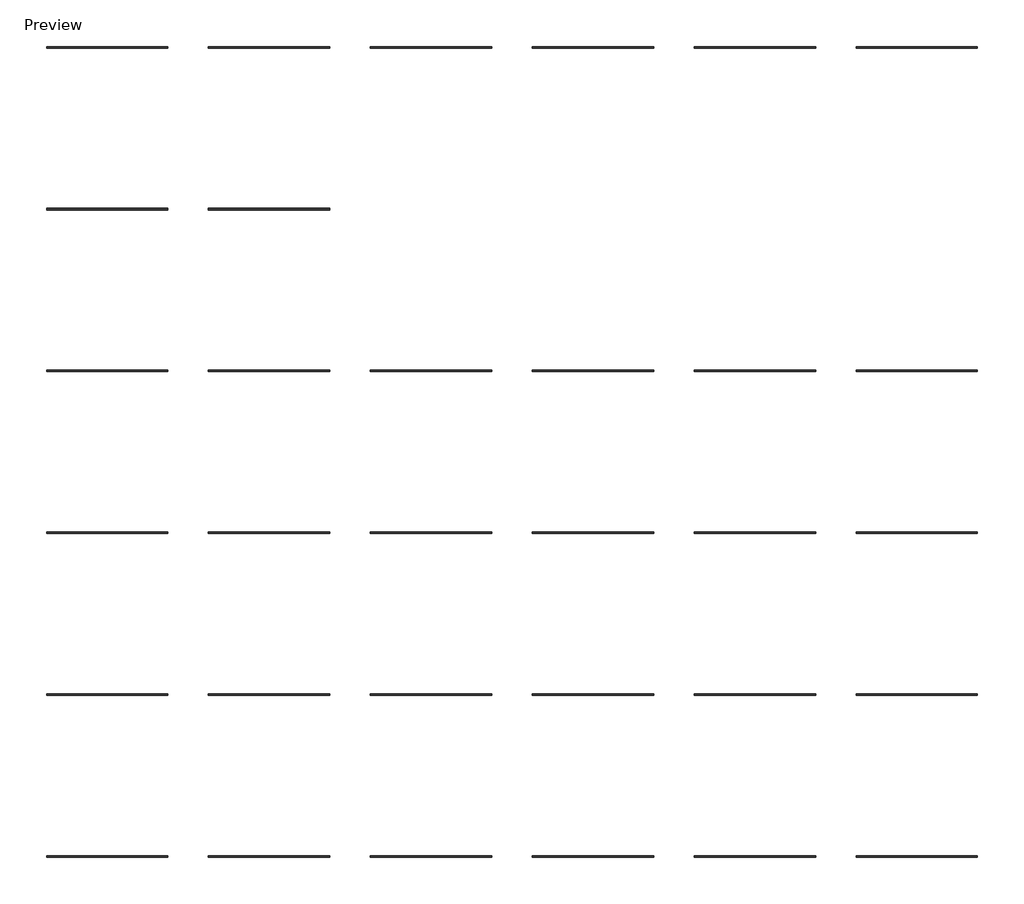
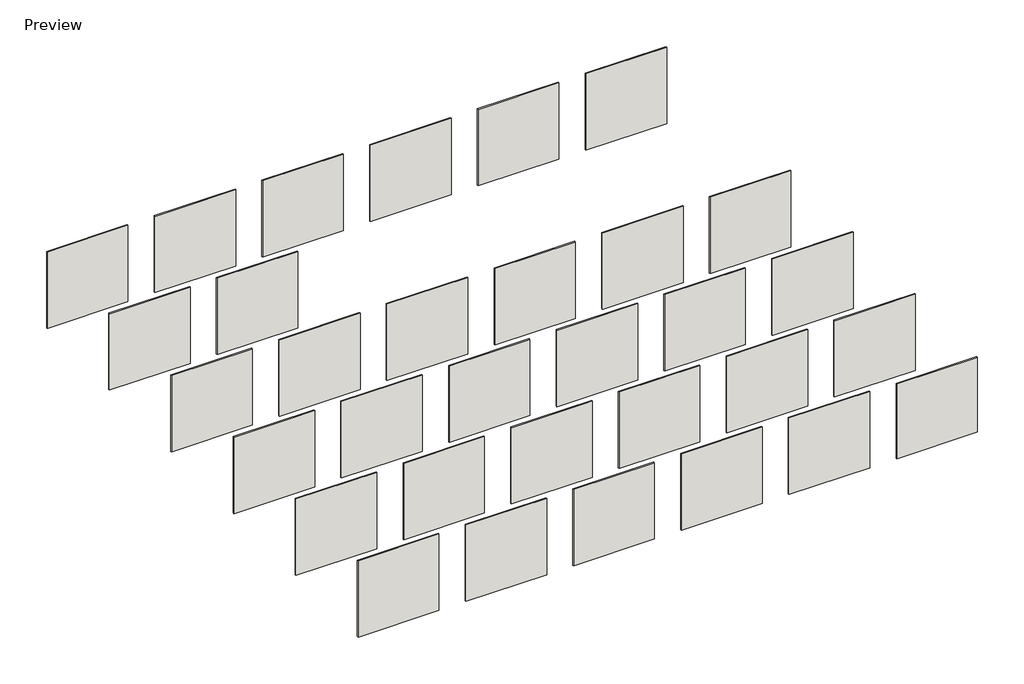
# One storey: 32 walls.
"""IFC4 building model written with IfcOpenShell, lengths in millimetres."""

import ifcopenshell
import ifcopenshell.guid

model = None  # the IFC model being written
_history = None  # IfcOwnerHistory: only IFC2X3 demands one
_inside = {}  # id of a spatial element -> (the spatial element, [elements in it])
_under = {}  # id of a project, library or spatial element -> (it, [spatial elements below it])
_declared = {}  # id of a project -> (the project, [libraries it declares])
_typed = {}  # id of a type object -> (the type object, [elements of that type])
_made_of = {}  # id of a material, layer set ... -> (it, [elements and type objects made of it])


def new_model(schema):
    """Start an empty IFC model of exactly this schema.

    Asked for "IFC4X3", IfcOpenShell would pick the latest addendum, in which some entities
    have other attributes; the version numbers below select the first issue.
    IFC2X3 requires an IfcOwnerHistory on every rooted entity: one is made here for all.
    """
    global model, _history
    if schema == "IFC4X3":
        model = ifcopenshell.file(schema_version=(4, 3, 0, 0))
    else:
        model = ifcopenshell.file(schema=schema)
    _inside.clear()
    _under.clear()
    _declared.clear()
    _typed.clear()
    _made_of.clear()
    _history = None
    if model.schema == "IFC2X3":
        org = make("IfcOrganization", Name="unknown")
        user = make(
            "IfcPersonAndOrganization",
            ThePerson=make("IfcPerson", FamilyName="unknown"),
            TheOrganization=org,
        )
        app = make(
            "IfcApplication",
            ApplicationDeveloper=org,
            Version="unknown",
            ApplicationFullName="unknown",
            ApplicationIdentifier="unknown",
        )
        _history = make(
            "IfcOwnerHistory",
            OwningUser=user,
            OwningApplication=app,
            ChangeAction="ADDED",
            CreationDate=0,
        )
    return model


def make(cls, **values):
    """One entity of the class cls with the attributes given. An attribute that is None is left unset."""
    return model.create_entity(
        cls, **{name: value for name, value in values.items() if value is not None}
    )


def rooted(cls, **values):
    """An entity with a GlobalId (a new one), such as an element, a storey or a relation."""
    return make(cls, GlobalId=ifcopenshell.guid.new(), OwnerHistory=_history, **values)


def si_unit(unit_type, name, prefix=None):
    """IfcSIUnit, for example si_unit("LENGTHUNIT", "METRE", prefix="MILLI")."""
    return make("IfcSIUnit", UnitType=unit_type, Prefix=prefix, Name=name)


def assignment(units):
    """IfcUnitAssignment: the units of a project."""
    return None if units is None else make("IfcUnitAssignment", Units=units)


def point(xyz):
    """IfcCartesianPoint."""
    return None if xyz is None else make("IfcCartesianPoint", Coordinates=xyz)


def direction(xyz):
    """IfcDirection."""
    return None if xyz is None else make("IfcDirection", DirectionRatios=xyz)


def frame(location, z_axis=None, x_axis=None):
    """IfcAxis2Placement3D, a coordinate frame: its origin and axes. An axis left out is left unset."""
    return make(
        "IfcAxis2Placement3D",
        Location=point(location),
        Axis=direction(z_axis),
        RefDirection=direction(x_axis),
    )


def origin():
    """The frame at (0, 0, 0) with its axes left unset."""
    return frame((0.0, 0.0, 0.0))


def origin_with_axes():
    """The frame at (0, 0, 0) with the z axis (0, 0, 1) and the x axis (1, 0, 0) written out."""
    return frame((0.0, 0.0, 0.0), z_axis=(0.0, 0.0, 1.0), x_axis=(1.0, 0.0, 0.0))


def place(relative_to, where):
    """IfcLocalPlacement: puts the frame where relative to a parent placement (None: the world)."""
    return make(
        "IfcLocalPlacement", PlacementRelTo=relative_to, RelativePlacement=where
    )


def context(
    kind, dimensions, precision=None, world=None, true_north=None, identifier=None
):
    """IfcGeometricRepresentationContext, for example the 3D "Model" context."""
    return make(
        "IfcGeometricRepresentationContext",
        ContextIdentifier=identifier,
        ContextType=kind,
        CoordinateSpaceDimension=dimensions,
        Precision=precision,
        WorldCoordinateSystem=world,
        TrueNorth=true_north,
    )


def project(units=None, contexts=None):
    """IfcProject with its units and contexts."""
    return rooted(
        "IfcProject",
        Name="project",
        RepresentationContexts=contexts,
        UnitsInContext=assignment(units),
    )


def spatial(cls, under=None, at=None, **own):
    """A site, building, storey or space (cls), placed at a placement, below another one or the project."""
    s = rooted(cls, ObjectPlacement=at, **own)
    if under is not None:
        _under.setdefault(under.id(), (under, []))[1].append(s)
    return s


def polyline(points):
    """IfcPolyline through the points."""
    return make("IfcPolyline", Points=[point(p) for p in points])


def outline(outer, holes=None, kind="AREA"):
    """IfcArbitraryClosedProfileDef: a profile drawn as a closed curve; with holes, ...WithVoids."""
    if holes is None:
        return make("IfcArbitraryClosedProfileDef", ProfileType=kind, OuterCurve=outer)
    return make(
        "IfcArbitraryProfileDefWithVoids",
        ProfileType=kind,
        OuterCurve=outer,
        InnerCurves=holes,
    )


def extrude(swept, where, along, depth):
    """IfcExtrudedAreaSolid: the profile swept, set in the frame where, extruded along a direction by depth."""
    return make(
        "IfcExtrudedAreaSolid",
        SweptArea=swept,
        Position=where,
        ExtrudedDirection=direction(along),
        Depth=depth,
    )


def shape(context_of_items, identifier, shape_type, items):
    """IfcShapeRepresentation: the items that make up one representation, for example the "Body"."""
    return make(
        "IfcShapeRepresentation",
        ContextOfItems=context_of_items,
        RepresentationIdentifier=identifier,
        RepresentationType=shape_type,
        Items=items,
    )


def made_of(thing, what):
    """Note that an element or type object is made of a material, layer set ...; save() writes the relation."""
    if what is not None:
        _made_of.setdefault(what.id(), (what, []))[1].append(thing)
    return thing


def element(
    cls,
    number,
    at=None,
    inside=None,
    cuts=None,
    type_object=None,
    material=None,
    context=None,
    identifier="Body",
    shape_type=None,
    held_by="IfcProductDefinitionShape",
    body=None,
    shapes=None,
    **own,
):
    """One element of the class cls, such as IfcWall. Its Tag is "e" and its number.

    at: its placement. inside: the storey or other place that contains it. cuts: it is an
    opening in that element (IfcRelVoidsElement). A single representation is given by context,
    identifier, shape_type and body (its items); several are given by shapes. held_by: the class
    of the entity that holds the representations. save() writes the other relations.
    """
    e = rooted(cls, Tag="e%d" % number, ObjectPlacement=at, **own)
    if body is not None:
        shapes = [shape(context, identifier, shape_type, body)]
    if shapes is not None:
        e.Representation = make(held_by, Representations=shapes)
    if inside is not None:
        _inside.setdefault(inside.id(), (inside, []))[1].append(e)
    if cuts is not None:
        rooted(
            "IfcRelVoidsElement", RelatingBuildingElement=cuts, RelatedOpeningElement=e
        )
    if type_object is not None:
        _typed.setdefault(type_object.id(), (type_object, []))[1].append(e)
    return made_of(e, material)


def aggregate(whole, parts):
    """IfcRelAggregates: a whole, such as a stair, and the parts it consists of."""
    return rooted("IfcRelAggregates", RelatingObject=whole, RelatedObjects=parts)


def save(model, path):
    """Write the relations noted so far, then the file.

    IfcRelAggregates (storeys below a building ...), IfcRelContainedInSpatialStructure (elements
    in a storey), IfcRelDefinesByType, IfcRelAssociatesMaterial and IfcRelDeclares: one each for
    every whole, place, type object, material and project.
    """
    for whole, parts in _under.values():
        aggregate(whole, parts)
    for where, things in _inside.values():
        rooted(
            "IfcRelContainedInSpatialStructure",
            RelatedElements=things,
            RelatingStructure=where,
        )
    for kind, things in _typed.values():
        rooted("IfcRelDefinesByType", RelatedObjects=things, RelatingType=kind)
    for what, things in _made_of.values():
        rooted("IfcRelAssociatesMaterial", RelatedObjects=things, RelatingMaterial=what)
    for by, libraries in _declared.values():
        rooted("IfcRelDeclares", RelatingContext=by, RelatedDefinitions=libraries)
    model.write(path)


model = new_model("IFC4")

# Units and contexts
model_context = context("Model", 3, world=origin())
ifc_project = project(units=[si_unit("LENGTHUNIT", "METRE", prefix="MILLI")], contexts=[model_context])

# Site, building, storey
site = spatial("IfcSite", under=ifc_project)
building = spatial("IfcBuilding", under=site)
storey = spatial("IfcBuildingStorey", under=building, Name="Preview", Elevation=0.0)

# Walls
placement = place(None, origin())
element("IfcWall", 1, ObjectType="ATAS_Ascot White", at=placement, inside=storey, context=model_context, shape_type="SweptSolid", body=[
    extrude(outline(polyline([(-18839.3718391, 8535.7201131), (-20668.1718391, 8535.7201131), (-20668.1718391, 8559.5326131), (-18839.3718391, 8559.5326131), (-18839.3718391, 8535.7201131)])), origin_with_axes(), (0.0, 0.0, 1.0), 1828.8),
])
element("IfcWall", 2, ObjectType="ATAS_Classic Bronze", at=placement, inside=storey, context=model_context, shape_type="SweptSolid", body=[
    extrude(outline(polyline([(-16400.9718391, 8535.7201131), (-18229.7718391, 8535.7201131), (-18229.7718391, 8559.5326131), (-16400.9718391, 8559.5326131), (-16400.9718391, 8535.7201131)])), origin_with_axes(), (0.0, 0.0, 1.0), 1828.8),
])
element("IfcWall", 3, ObjectType="ATAS_Teal", at=placement, inside=storey, context=model_context, shape_type="SweptSolid", body=[
    extrude(outline(polyline([(-13962.5718391, 8535.7201131), (-15791.3718391, 8535.7201131), (-15791.3718391, 8559.5326131), (-13962.5718391, 8559.5326131), (-13962.5718391, 8535.7201131)])), origin_with_axes(), (0.0, 0.0, 1.0), 1828.8),
])
element("IfcWall", 4, ObjectType="ATAS_Boysenberry", at=placement, inside=storey, context=model_context, shape_type="SweptSolid", body=[
    extrude(outline(polyline([(-11524.1718391, 8535.7201131), (-13352.9718391, 8535.7201131), (-13352.9718391, 8559.5326131), (-11524.1718391, 8559.5326131), (-11524.1718391, 8535.7201131)])), origin_with_axes(), (0.0, 0.0, 1.0), 1828.8),
])
element("IfcWall", 5, ObjectType="ATAS_Rawhide", at=placement, inside=storey, context=model_context, shape_type="SweptSolid", body=[
    extrude(outline(polyline([(-9085.7718391, 8535.7201131), (-10914.5718391, 8535.7201131), (-10914.5718391, 8559.5326131), (-9085.7718391, 8559.5326131), (-9085.7718391, 8535.7201131)])), origin_with_axes(), (0.0, 0.0, 1.0), 1828.8),
])
element("IfcWall", 6, ObjectType="ATAS_Regal Blue", at=placement, inside=storey, context=model_context, shape_type="SweptSolid", body=[
    extrude(outline(polyline([(-6647.3718391, 8535.7201131), (-8476.1718391, 8535.7201131), (-8476.1718391, 8559.5326131), (-6647.3718391, 8559.5326131), (-6647.3718391, 8535.7201131)])), origin_with_axes(), (0.0, 0.0, 1.0), 1828.8),
])
element("IfcWall", 7, ObjectType="ATAS_ Black", at=placement, inside=storey, context=model_context, shape_type="SweptSolid", body=[
    extrude(outline(polyline([(-18839.3718391, 6097.3201131), (-20668.1718391, 6097.3201131), (-20668.1718391, 6121.1326131), (-18839.3718391, 6121.1326131), (-18839.3718391, 6097.3201131)])), origin_with_axes(), (0.0, 0.0, 1.0), 1828.8),
])
element("IfcWall", 8, ObjectType="ATAS_Forest Green", at=placement, inside=storey, context=model_context, shape_type="SweptSolid", body=[
    extrude(outline(polyline([(-16400.9718391, 6097.3201131), (-18229.7718391, 6097.3201131), (-18229.7718391, 6121.1326131), (-16400.9718391, 6121.1326131), (-16400.9718391, 6097.3201131)])), origin_with_axes(), (0.0, 0.0, 1.0), 1828.8),
])
element("IfcWall", 9, ObjectType="ATAS_Chocolate Brown", at=placement, inside=storey, context=model_context, shape_type="SweptSolid", body=[
    extrude(outline(polyline([(-13962.5718391, 6097.3201131), (-15791.3718391, 6097.3201131), (-15791.3718391, 6121.1326131), (-13962.5718391, 6121.1326131), (-13962.5718391, 6097.3201131)])), origin_with_axes(), (0.0, 0.0, 1.0), 1828.8),
])
element("IfcWall", 10, ObjectType="ATAS_Sierra Tan", at=placement, inside=storey, context=model_context, shape_type="SweptSolid", body=[
    extrude(outline(polyline([(-11524.1718391, 6097.3201131), (-13352.9718391, 6097.3201131), (-13352.9718391, 6121.1326131), (-11524.1718391, 6121.1326131), (-11524.1718391, 6097.3201131)])), origin_with_axes(), (0.0, 0.0, 1.0), 1828.8),
])
element("IfcWall", 11, ObjectType="ATAS_Sandstone", at=placement, inside=storey, context=model_context, shape_type="SweptSolid", body=[
    extrude(outline(polyline([(-9085.7718391, 6097.3201131), (-10914.5718391, 6097.3201131), (-10914.5718391, 6121.1326131), (-9085.7718391, 6121.1326131), (-9085.7718391, 6097.3201131)])), origin_with_axes(), (0.0, 0.0, 1.0), 1828.8),
])
element("IfcWall", 12, ObjectType="ATAS_Rocky Grey", at=placement, inside=storey, context=model_context, shape_type="SweptSolid", body=[
    extrude(outline(polyline([(-6647.3718391, 6097.3201131), (-8476.1718391, 6097.3201131), (-8476.1718391, 6121.1326131), (-6647.3718391, 6121.1326131), (-6647.3718391, 6097.3201131)])), origin_with_axes(), (0.0, 0.0, 1.0), 1793.6354952),
])
element("IfcWall", 13, ObjectType="ATAS_Charcoal Grey", at=placement, inside=storey, context=model_context, shape_type="SweptSolid", body=[
    extrude(outline(polyline([(-18839.3718391, 10974.1201131), (-20668.1718391, 10974.1201131), (-20668.1718391, 10997.9326131), (-18839.3718391, 10997.9326131), (-18839.3718391, 10974.1201131)])), origin_with_axes(), (0.0, 0.0, 1.0), 1828.8),
])
element("IfcWall", 14, ObjectType="ATAS_Bone White", at=placement, inside=storey, context=model_context, shape_type="SweptSolid", body=[
    extrude(outline(polyline([(-16400.9718391, 10974.1201131), (-18229.7718391, 10974.1201131), (-18229.7718391, 10997.9326131), (-16400.9718391, 10997.9326131), (-16400.9718391, 10974.1201131)])), origin_with_axes(), (0.0, 0.0, 1.0), 1828.8),
])
element("IfcWall", 15, ObjectType="ATAS_Medium Bronze", at=placement, inside=storey, context=model_context, shape_type="SweptSolid", body=[
    extrude(outline(polyline([(-13962.5718391, 10974.1201131), (-15791.3718391, 10974.1201131), (-15791.3718391, 10997.9326131), (-13962.5718391, 10997.9326131), (-13962.5718391, 10974.1201131)])), origin_with_axes(), (0.0, 0.0, 1.0), 1828.8),
])
element("IfcWall", 16, ObjectType="ATAS_Hemlock Green", at=placement, inside=storey, context=model_context, shape_type="SweptSolid", body=[
    extrude(outline(polyline([(-11524.1718391, 10974.1201131), (-13352.9718391, 10974.1201131), (-13352.9718391, 10997.9326131), (-11524.1718391, 10997.9326131), (-11524.1718391, 10974.1201131)])), origin_with_axes(), (0.0, 0.0, 1.0), 1828.8),
])
element("IfcWall", 17, ObjectType="ATAS_Redwood", at=placement, inside=storey, context=model_context, shape_type="SweptSolid", body=[
    extrude(outline(polyline([(-9085.7718391, 10974.1201131), (-10914.5718391, 10974.1201131), (-10914.5718391, 10997.9326131), (-9085.7718391, 10997.9326131), (-9085.7718391, 10974.1201131)])), origin_with_axes(), (0.0, 0.0, 1.0), 1828.8),
])
element("IfcWall", 18, ObjectType="ATAS_Concord Cream", at=placement, inside=storey, context=model_context, shape_type="SweptSolid", body=[
    extrude(outline(polyline([(-6647.3718391, 10974.1201131), (-8476.1718391, 10974.1201131), (-8476.1718391, 10997.9326131), (-6647.3718391, 10997.9326131), (-6647.3718391, 10974.1201131)])), origin_with_axes(), (0.0, 0.0, 1.0), 1828.8),
])
element("IfcWall", 19, ObjectType="ATAS_Slate Blue", at=placement, inside=storey, context=model_context, shape_type="SweptSolid", body=[
    extrude(outline(polyline([(-18839.3718391, 13412.5201131), (-20668.1718391, 13412.5201131), (-20668.1718391, 13436.3326131), (-18839.3718391, 13436.3326131), (-18839.3718391, 13412.5201131)])), origin_with_axes(), (0.0, 0.0, 1.0), 1828.8),
])
element("IfcWall", 20, ObjectType="ATAS_Slate Grey", at=placement, inside=storey, context=model_context, shape_type="SweptSolid", body=[
    extrude(outline(polyline([(-16400.9718391, 13412.5201131), (-18229.7718391, 13412.5201131), (-18229.7718391, 13436.3326131), (-16400.9718391, 13436.3326131), (-16400.9718391, 13412.5201131)])), origin_with_axes(), (0.0, 0.0, 1.0), 1828.8),
])
element("IfcWall", 21, ObjectType="ATAS_Hatford Green", at=placement, inside=storey, context=model_context, shape_type="SweptSolid", body=[
    extrude(outline(polyline([(-13962.5718391, 13412.5201131), (-15791.3718391, 13412.5201131), (-15791.3718391, 13436.3326131), (-13962.5718391, 13436.3326131), (-13962.5718391, 13412.5201131)])), origin_with_axes(), (0.0, 0.0, 1.0), 1828.8),
])
element("IfcWall", 22, ObjectType="ATAS_Patina Green", at=placement, inside=storey, context=model_context, shape_type="SweptSolid", body=[
    extrude(outline(polyline([(-11524.1718391, 13412.5201131), (-13352.9718391, 13412.5201131), (-13352.9718391, 13436.3326131), (-11524.1718391, 13436.3326131), (-11524.1718391, 13412.5201131)])), frame((0.0, 0.0, -5.2424975), z_axis=(0.0, 0.0, 1.0), x_axis=(1.0, 0.0, 0.0)), (0.0, 0.0, 1.0), 1834.0424975),
])
element("IfcWall", 23, ObjectType="ATAS_Mission Red", at=placement, inside=storey, context=model_context, shape_type="SweptSolid", body=[
    extrude(outline(polyline([(-9085.7718391, 13412.5201131), (-10914.5718391, 13412.5201131), (-10914.5718391, 13436.3326131), (-9085.7718391, 13436.3326131), (-9085.7718391, 13412.5201131)])), origin_with_axes(), (0.0, 0.0, 1.0), 1828.8),
])
element("IfcWall", 24, ObjectType="ATAS_Almond", at=placement, inside=storey, context=model_context, shape_type="SweptSolid", body=[
    extrude(outline(polyline([(-6647.3718391, 13412.5201131), (-8476.1718391, 13412.5201131), (-8476.1718391, 13436.3326131), (-6647.3718391, 13436.3326131), (-6647.3718391, 13412.5201131)])), origin_with_axes(), (0.0, 0.0, 1.0), 1828.8),
])
element("IfcWall", 25, ObjectType="ATAS_Siam Blue", at=placement, inside=storey, context=model_context, shape_type="SweptSolid", body=[
    extrude(outline(polyline([(-18839.3718391, 15850.9201131), (-20668.1718391, 15850.9201131), (-20668.1718391, 15874.7326131), (-18839.3718391, 15874.7326131), (-18839.3718391, 15850.9201131)])), origin_with_axes(), (0.0, 0.0, 1.0), 1828.8),
])
element("IfcWall", 26, ObjectType="ATAS_Dove Grey", at=placement, inside=storey, context=model_context, shape_type="SweptSolid", body=[
    extrude(outline(polyline([(-16400.9718391, 15850.9201131), (-18229.7718391, 15850.9201131), (-18229.7718391, 15874.7326131), (-16400.9718391, 15874.7326131), (-16400.9718391, 15850.9201131)])), origin_with_axes(), (0.0, 0.0, 1.0), 1828.8),
])
element("IfcWall", 27, ObjectType="ATAS_Silversmith", at=placement, inside=storey, context=model_context, shape_type="SweptSolid", body=[
    extrude(outline(polyline([(-18839.3718391, 18289.3201131), (-20668.1718391, 18289.3201131), (-20668.1718391, 18313.1326131), (-18839.3718391, 18313.1326131), (-18839.3718391, 18289.3201131)])), origin_with_axes(), (0.0, 0.0, 1.0), 1828.8),
])
element("IfcWall", 28, ObjectType="ATAS_Brite Red", at=placement, inside=storey, context=model_context, shape_type="SweptSolid", body=[
    extrude(outline(polyline([(-16400.9718391, 18289.3201131), (-18229.7718391, 18289.3201131), (-18229.7718391, 18313.1326131), (-16400.9718391, 18313.1326131), (-16400.9718391, 18289.3201131)])), origin_with_axes(), (0.0, 0.0, 1.0), 1828.8),
])
element("IfcWall", 29, ObjectType="ATAS_Antique Patina", at=placement, inside=storey, context=model_context, shape_type="SweptSolid", body=[
    extrude(outline(polyline([(-13962.5718391, 18289.3201131), (-15791.3718391, 18289.3201131), (-15791.3718391, 18313.1326131), (-13962.5718391, 18313.1326131), (-13962.5718391, 18289.3201131)])), origin_with_axes(), (0.0, 0.0, 1.0), 1828.8),
])
element("IfcWall", 30, ObjectType="ATAS_Champagne", at=placement, inside=storey, context=model_context, shape_type="SweptSolid", body=[
    extrude(outline(polyline([(-11524.1718391, 18289.3201131), (-13352.9718391, 18289.3201131), (-13352.9718391, 18313.1326131), (-11524.1718391, 18313.1326131), (-11524.1718391, 18289.3201131)])), origin_with_axes(), (0.0, 0.0, 1.0), 1828.8),
])
element("IfcWall", 31, ObjectType="ATAS_Coppertone", at=placement, inside=storey, context=model_context, shape_type="SweptSolid", body=[
    extrude(outline(polyline([(-9085.7718391, 18289.3201131), (-10914.5718391, 18289.3201131), (-10914.5718391, 18313.1326131), (-9085.7718391, 18313.1326131), (-9085.7718391, 18289.3201131)])), origin_with_axes(), (0.0, 0.0, 1.0), 1828.8),
])
element("IfcWall", 32, ObjectType="ATAS_Titanium", at=placement, inside=storey, context=model_context, shape_type="SweptSolid", body=[
    extrude(outline(polyline([(-6647.3718391, 18289.3201131), (-8476.1718391, 18289.3201131), (-8476.1718391, 18313.1326131), (-6647.3718391, 18313.1326131), (-6647.3718391, 18289.3201131)])), origin_with_axes(), (0.0, 0.0, 1.0), 1828.8),
])

save(model, "model.ifc")
